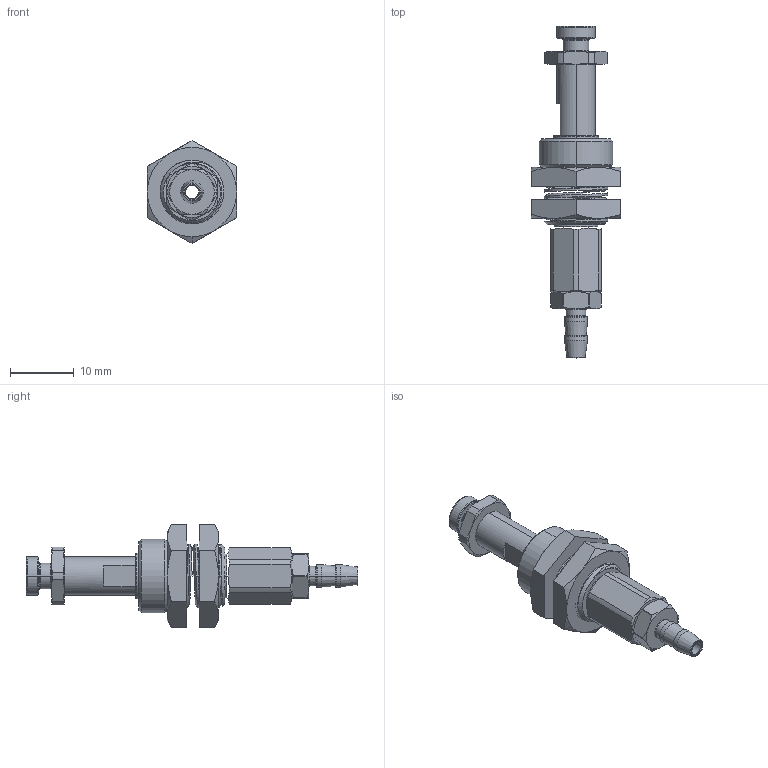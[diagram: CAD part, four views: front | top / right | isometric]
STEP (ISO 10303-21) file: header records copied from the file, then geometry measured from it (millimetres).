
FILE_DESCRIPTION (( 'STEP AP203' ), '1' );
FILE_NAME ('bln04-4bt5m10nk35-m5-耳6耳4-耳3.6_asm.STEP', '2024-10-29T05:29:36', ( '' ), ( '' ), 'SwSTEP 2.0', 'SolidWorks 2022', '' );
FILE_SCHEMA (( 'CONFIG_CONTROL_DESIGN' ));
Length unit declared in the file: millimetre
Products named in the file (1): bln04-4bt5m10nk35-m5-φ6φ4-φ3.6_asm
Bounding box: 14 x 52.1 x 16.17 mm (x, y, z)
Surface area: 2334.1 mm2 (no closed solid volume)
Topology: 0 solids, 12 shells, 205 faces, 527 edges, 337 vertices
Faces by surface type: cone 68, plane 53, cylinder 47, torus 34, bspline 3
Entity records: 8483 total; most frequent: CARTESIAN_POINT 3622, DIRECTION 1017, ORIENTED_EDGE 937, EDGE_CURVE 527, AXIS2_PLACEMENT_3D 443, VERTEX_POINT 337, CIRCLE 240, EDGE_LOOP 220
